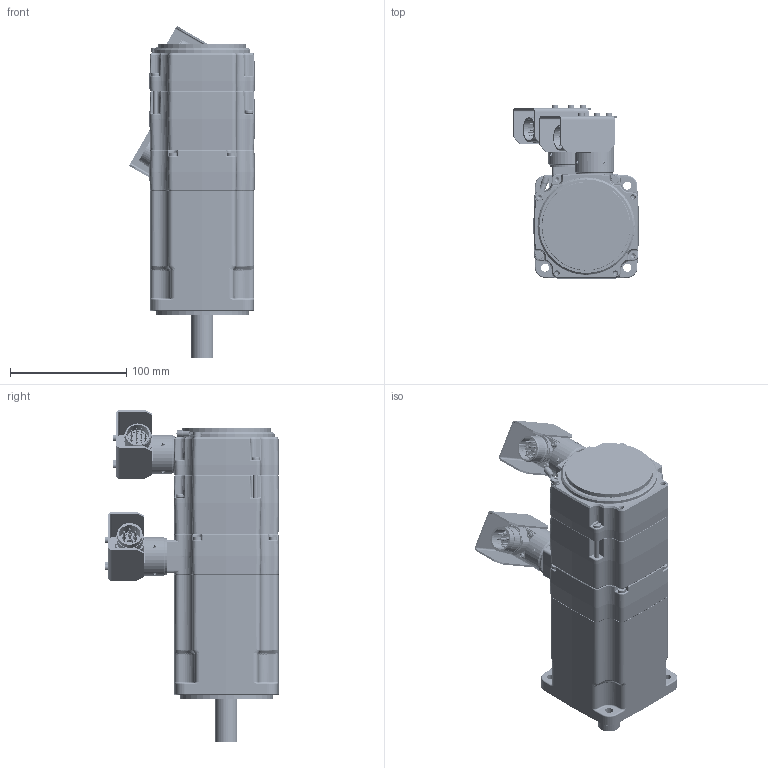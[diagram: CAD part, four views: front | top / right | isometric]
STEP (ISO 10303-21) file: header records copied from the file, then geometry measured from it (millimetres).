
FILE_DESCRIPTION((''),'2;1');
FILE_NAME('EY420EAR7310_ASM','2016-10-19T',('pf73167'),(''),'PRO/ENGINEER BY PARAMETRIC TECHNOLOGY CORPORATION, 2009400','PRO/ENGINEER BY PARAMETRIC TECHNOLOGY CORPORATION, 2009400','');
FILE_SCHEMA(('CONFIG_CONTROL_DESIGN'));
Length unit declared in the file: millimetre
Products named in the file (59): 344176P0027; 5116P1308; 1613P0123; 344174P0003; 344171P0001; 344212P0002; 344171P0001_ASM; 344175R0003_ASM; 5116P1315; 1711P0005; 1645P0017; 344170P0001; 344225R2000; 344561P0001; 344570P0002_ENROULE; 344228R2000_ASM; 344172P0009; 344173R2008_ASM; 5340P0069; 5320P0033; 1143P0415; 1821P0015; 1613P0043; 1613P0044; 1317P0303; 283154_05_P1BF102_AF0; 283154_05_P1F501_AF0; 283154P0037_ASM; 1150P0305; 344180P0001; 1613P0034; 1613P0035; 282280P0012; 220005P1002; 344509P0001; 1643P0104; 1143P0405; 344180P0018; 1642P0104; 6620P0012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
Assembly tree (145 placements, depth 4):
  EY420EAR7310_ASM
    344176P0027
    5116P1308
    1613P0123
    344175R0003_ASM
      344174P0003
      344171P0001_ASM
        344171P0001  x10
        344212P0002  x2
    5116P1315
    1711P0005
    1645P0017  x2
    344173R2008_ASM
      344228R2000_ASM
        344170P0001
        344225R2000  x6
        344561P0001  x2
        344570P0002_ENROULE  x2
      344172P0009
    5340P0069  x3
    5320P0033
    1143P0415  x6
    1821P0015  x2
    1613P0043  x4
    1613P0044  x2
    1317P0303
    283154P0037_ASM
      283154_05_P1BF102_AF0
      283154_05_P1F501_AF0
    1150P0305  x4
    344180P0001
    1613P0034
    1613P0035
    282280P0012
    220005P1002
    344509P0001
    1643P0104  x3
    1143P0405  x3
    344180P0018
    1642P0104
    6620P0012
    1143P0408
    1120P0074  x2
    345359R1010_ASM
      345359P0002
      5340P0124
      5340P0125
      1150P0204  x8
      345359P0001
      1170P0042  x4
      220132P1010_ASM
        220132P1010_0001
        220132P1010_0002
        220132P0111  x4
        220132P0120  x3
      345359P0003
      1150P0305  x3
    345359R1020_ASM
      345359P0002
      5340P0124
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Bounding box: 108.48 x 150.2 x 285.74 mm (x, y, z)
Volume: 1223446.4 mm3; surface area: 480655.9 mm2
Topology: 142 solids, 143 shells, 6635 faces, 15549 edges, 9421 vertices
Faces by surface type: plane 2362, cylinder 1953, cone 1024, bspline 812, torus 436, sphere 28, extrusion 20
Entity records: 155683 total; most frequent: CARTESIAN_POINT 54284, ORIENTED_EDGE 21160, DIRECTION 20369, EDGE_CURVE 10580, AXIS2_PLACEMENT_3D 7466, VERTEX_POINT 6583, VECTOR 5437, LINE 5435
